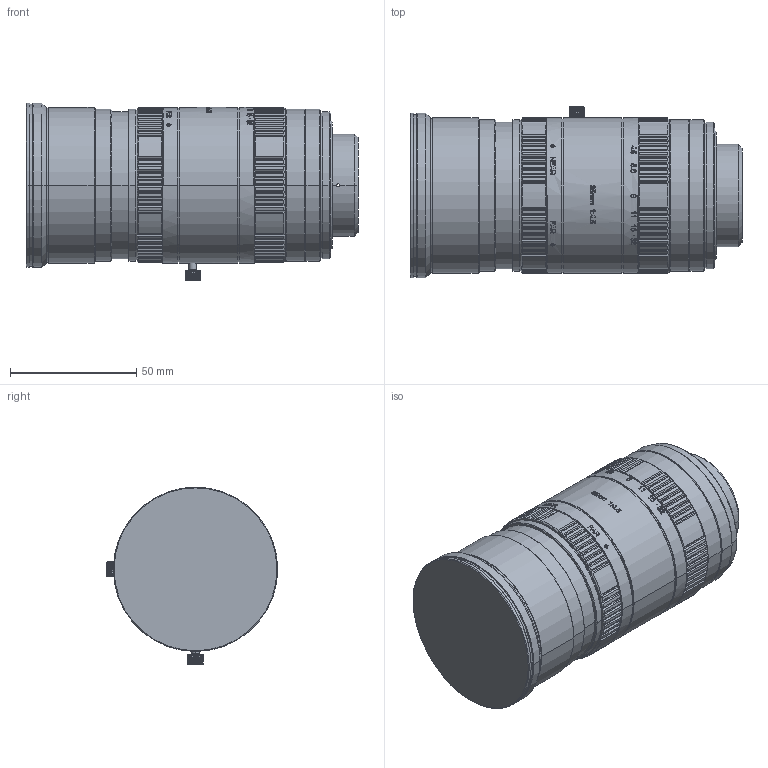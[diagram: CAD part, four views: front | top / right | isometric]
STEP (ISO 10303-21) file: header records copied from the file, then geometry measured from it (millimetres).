
FILE_DESCRIPTION((''),'2;1');
FILE_NAME('OPT-F3545-78M_____SW0001','2024-05-18T11:45:05',('admin'),(''),'CREO PARAMETRIC BY PTC INC, 2020354','CREO PARAMETRIC BY PTC INC, 2020354','');
FILE_SCHEMA(('AUTOMOTIVE_DESIGN { 1 0 10303 214 1 1 1 1 }'));
Products named in the file (1): OPT-F3545-78M_____SW0001
Bounding box: 131.25 x 67.78 x 70.32 mm (x, y, z)
Volume: 356247 mm3; surface area: 36334 mm2
Topology: 1 solids, 1 shells, 1594 faces, 4335 edges, 2806 vertices
Faces by surface type: plane 521, cylinder 511, bspline 300, cone 256, extrusion 6
Entity records: 62036 total; most frequent: CARTESIAN_POINT 23726, ORIENTED_EDGE 8670, DIRECTION 6931, EDGE_CURVE 4335, VERTEX_POINT 2806, AXIS2_PLACEMENT_3D 2562, VECTOR 1807, LINE 1801
